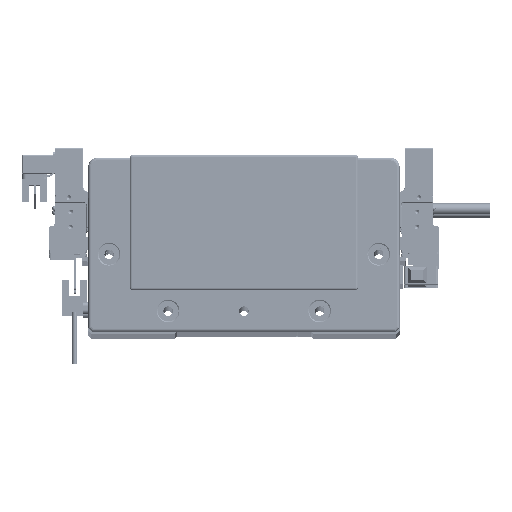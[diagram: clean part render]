
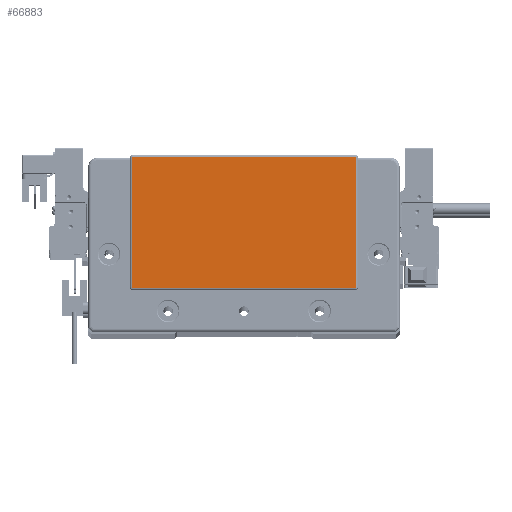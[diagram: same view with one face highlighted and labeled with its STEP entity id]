
A CAD part, top view. The second image highlights one B-rep face of the part: STEP entity #66883.
In plain terms, the highlighted planar face has unit normal (0, 0, 1) as drawn and (0, 0, -1) by its records, which use the part's own axes.
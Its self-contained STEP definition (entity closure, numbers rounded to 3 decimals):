
#2119 = DIRECTION ( 'NONE',  ( 0., 0., -1. ) ) ;
#3677 = EDGE_CURVE ( 'NONE', #119597, #60086, #65382, .T. ) ;
#3868 = EDGE_CURVE ( 'NONE', #88837, #72893, #44009, .T. ) ;
#7003 = VERTEX_POINT ( 'NONE', #92255 ) ;
#8068 = CARTESIAN_POINT ( 'NONE',  ( 59.25, 45.3, -2. ) ) ;
#8383 = CIRCLE ( 'NONE', #70140, 0.5 ) ;
#11201 = DIRECTION ( 'NONE',  ( -1., 0., 0. ) ) ;
#16128 = ORIENTED_EDGE ( 'NONE', *, *, #53383, .T. ) ;
#17326 = CARTESIAN_POINT ( 'NONE',  ( -59.25, 45.3, -2. ) ) ;
#18487 = CARTESIAN_POINT ( 'NONE',  ( -58.75, -23.3, -2. ) ) ;
#18817 = ORIENTED_EDGE ( 'NONE', *, *, #69458, .T. ) ;
#18860 = DIRECTION ( 'NONE',  ( -1., 0., 0. ) ) ;
#19177 = VERTEX_POINT ( 'NONE', #94878 ) ;
#20633 = LINE ( 'NONE', #94487, #78416 ) ;
#23254 = DIRECTION ( 'NONE',  ( -1., 0., 0. ) ) ;
#26020 = CARTESIAN_POINT ( 'NONE',  ( -59.25, 45.3, -2. ) ) ;
#26806 = AXIS2_PLACEMENT_3D ( 'NONE', #66225, #104355, #58960 ) ;
#30484 = PLANE ( 'NONE',  #40440 ) ;
#31634 = LINE ( 'NONE', #86735, #91494 ) ;
#37401 = CARTESIAN_POINT ( 'NONE',  ( 58.75, -23.8, -2. ) ) ;
#39083 = ORIENTED_EDGE ( 'NONE', *, *, #45353, .T. ) ;
#39966 = EDGE_CURVE ( 'NONE', #100986, #7003, #92544, .T. ) ;
#40440 = AXIS2_PLACEMENT_3D ( 'NONE', #96438, #59534, #77063 ) ;
#44009 = CIRCLE ( 'NONE', #59476, 0.5 ) ;
#45353 = EDGE_CURVE ( 'NONE', #19177, #92616, #8383, .T. ) ;
#45932 = EDGE_CURVE ( 'NONE', #7003, #19177, #31634, .T. ) ;
#45964 = VECTOR ( 'NONE', #54461, 1000. ) ;
#46129 = AXIS2_PLACEMENT_3D ( 'NONE', #18487, #2119, #11201 ) ;
#53383 = EDGE_CURVE ( 'NONE', #72893, #119597, #20633, .T. ) ;
#54461 = DIRECTION ( 'NONE',  ( 0., 1., 0. ) ) ;
#58960 = DIRECTION ( 'NONE',  ( -1., 0., 0. ) ) ;
#59323 = CARTESIAN_POINT ( 'NONE',  ( 58.75, 45.3, -2. ) ) ;
#59476 = AXIS2_PLACEMENT_3D ( 'NONE', #67454, #95294, #23254 ) ;
#59491 = LINE ( 'NONE', #96398, #85192 ) ;
#59534 = DIRECTION ( 'NONE',  ( 0., 0., -1. ) ) ;
#60086 = VERTEX_POINT ( 'NONE', #71553 ) ;
#65382 = CIRCLE ( 'NONE', #46129, 0.5 ) ;
#66225 = CARTESIAN_POINT ( 'NONE',  ( -58.75, 45.3, -2. ) ) ;
#66883 = ADVANCED_FACE ( 'NONE', ( #67995 ), #30484, .T. ) ;
#67454 = CARTESIAN_POINT ( 'NONE',  ( 58.75, -23.3, -2. ) ) ;
#67995 = FACE_OUTER_BOUND ( 'NONE', #89099, .T. ) ;
#69458 = EDGE_CURVE ( 'NONE', #92616, #88837, #59491, .T. ) ;
#70042 = ORIENTED_EDGE ( 'NONE', *, *, #45932, .T. ) ;
#70140 = AXIS2_PLACEMENT_3D ( 'NONE', #59323, #118433, #116623 ) ;
#71553 = CARTESIAN_POINT ( 'NONE',  ( -59.25, -23.3, -2. ) ) ;
#72893 = VERTEX_POINT ( 'NONE', #37401 ) ;
#76824 = ORIENTED_EDGE ( 'NONE', *, *, #3677, .T. ) ;
#77063 = DIRECTION ( 'NONE',  ( -1., 0., 0. ) ) ;
#78416 = VECTOR ( 'NONE', #18860, 1000. ) ;
#85192 = VECTOR ( 'NONE', #95200, 1000. ) ;
#86735 = CARTESIAN_POINT ( 'NONE',  ( 58.75, 45.8, -2. ) ) ;
#87149 = EDGE_CURVE ( 'NONE', #60086, #100986, #99852, .T. ) ;
#87353 = DIRECTION ( 'NONE',  ( 1., 0., 0. ) ) ;
#88837 = VERTEX_POINT ( 'NONE', #110062 ) ;
#89099 = EDGE_LOOP ( 'NONE', ( #18817, #93295, #16128, #76824, #117667, #91015, #70042, #39083 ) ) ;
#91015 = ORIENTED_EDGE ( 'NONE', *, *, #39966, .T. ) ;
#91494 = VECTOR ( 'NONE', #87353, 1000. ) ;
#92255 = CARTESIAN_POINT ( 'NONE',  ( -58.75, 45.8, -2. ) ) ;
#92544 = CIRCLE ( 'NONE', #26806, 0.5 ) ;
#92616 = VERTEX_POINT ( 'NONE', #8068 ) ;
#93295 = ORIENTED_EDGE ( 'NONE', *, *, #3868, .T. ) ;
#94487 = CARTESIAN_POINT ( 'NONE',  ( -58.75, -23.8, -2. ) ) ;
#94878 = CARTESIAN_POINT ( 'NONE',  ( 58.75, 45.8, -2. ) ) ;
#95200 = DIRECTION ( 'NONE',  ( 0., -1., 0. ) ) ;
#95294 = DIRECTION ( 'NONE',  ( 0., 0., -1. ) ) ;
#96398 = CARTESIAN_POINT ( 'NONE',  ( 59.25, -23.3, -2. ) ) ;
#96438 = CARTESIAN_POINT ( 'NONE',  ( 0., 0., -2. ) ) ;
#98440 = CARTESIAN_POINT ( 'NONE',  ( -58.75, -23.8, -2. ) ) ;
#99852 = LINE ( 'NONE', #26020, #45964 ) ;
#100986 = VERTEX_POINT ( 'NONE', #17326 ) ;
#104355 = DIRECTION ( 'NONE',  ( 0., 0., -1. ) ) ;
#110062 = CARTESIAN_POINT ( 'NONE',  ( 59.25, -23.3, -2. ) ) ;
#116623 = DIRECTION ( 'NONE',  ( -1., 0., 0. ) ) ;
#117667 = ORIENTED_EDGE ( 'NONE', *, *, #87149, .T. ) ;
#118433 = DIRECTION ( 'NONE',  ( 0., 0., -1. ) ) ;
#119597 = VERTEX_POINT ( 'NONE', #98440 ) ;
